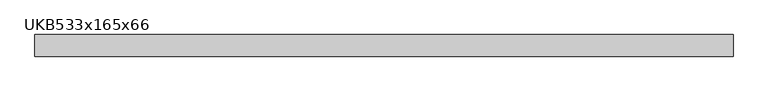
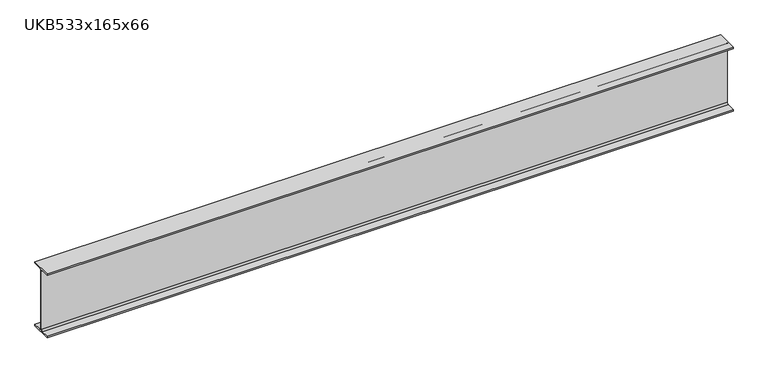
"""IFC4 building model written with IfcOpenShell, lengths in millimetres: beam geometry, UKB-UK Beams : UKB533x165x66."""

from ifc_helpers import new_model, si_unit, point, frame, frame_2d, origin, place, context, project, spatial, polyline, circle_curve, trimmed, segment, composite_curve, outline, extrude, source, transform, mapped, element, save


def ukb533x165x66_131661b1(model_context):
    return source(origin(), model_context, "Body", "SweptSolid", [
        extrude(outline(composite_curve([segment(polyline([(82.55, -250.95), (82.55, -262.35), (-82.55, -262.35), (-82.55, -250.95), (-17.15, -250.95)]), True, "CONTINUOUS"), segment(trimmed(circle_curve(frame_2d((-17.15, -238.25)), 12.7), [point((-17.15, -250.95))], [point((-4.45, -238.25))], True, "CARTESIAN"), True, "CONTINUOUS"), segment(polyline([(-4.45, -238.25), (-4.45, 238.25)]), True, "CONTINUOUS"), segment(trimmed(circle_curve(frame_2d((-17.15, 238.25)), 12.7), [point((-4.45, 238.25))], [point((-17.15, 250.95))], True, "CARTESIAN"), True, "CONTINUOUS"), segment(polyline([(-17.15, 250.95), (-82.55, 250.95), (-82.55, 262.35), (82.55, 262.35), (82.55, 250.95), (17.15, 250.95)]), True, "CONTINUOUS"), segment(trimmed(circle_curve(frame_2d((17.15, 238.25)), 12.7), [point((17.15, 250.95))], [point((4.45, 238.25))], True, "CARTESIAN"), True, "CONTINUOUS"), segment(polyline([(4.45, 238.25), (4.45, -238.25)]), True, "CONTINUOUS"), segment(trimmed(circle_curve(frame_2d((17.15, -238.25)), 12.7), [point((4.45, -238.25))], [point((17.15, -250.95))], True, "CARTESIAN"), True, "CONTINUOUS"), segment(polyline([(17.15, -250.95), (82.55, -250.95)]), True, "CONTINUOUS")], self_intersect=False)), frame((-2660.5, 0.0, 0.0), z_axis=(1.0, 0.0, 0.0), x_axis=(0.0, 1.0, 0.0)), (0.0, 0.0, 1.0), 5321.0),
    ])


if __name__ == "__main__":
    model = new_model("IFC4")
    model_context = context("Model", 3, world=origin())
    ifc_project = project(units=[si_unit("LENGTHUNIT", "METRE", prefix="MILLI")], contexts=[model_context])
    site = spatial("IfcSite", under=ifc_project)
    building = spatial("IfcBuilding", under=site)
    placement = place(None, origin())
    ukb533x165x66_shape = ukb533x165x66_131661b1(model_context)
    element("IfcBeam", 1, ObjectType="UKB-UK Beams : UKB533x165x66", at=placement, inside=building, context=model_context, shape_type="MappedRepresentation", body=[
        mapped(ukb533x165x66_shape, transform((0.0, 0.0, 0.0), x_axis=(1.0, 0.0, 0.0), y_axis=(0.0, 1.0, 0.0), z_axis=(0.0, 0.0, 1.0))),
    ])
    save(model, "model.ifc")
